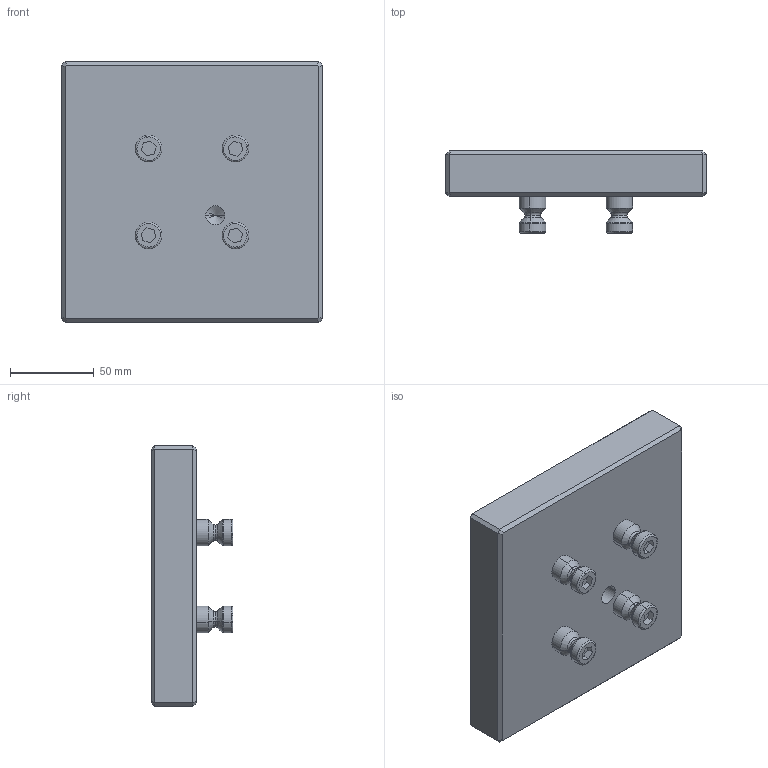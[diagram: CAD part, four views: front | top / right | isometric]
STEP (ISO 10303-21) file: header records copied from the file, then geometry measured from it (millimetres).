
FILE_DESCRIPTION (( 'STEP AP203' ), '1' );
FILE_NAME ('45277.STEP', '2012-10-24T14:00:41', ( '' ), ( '' ), 'SwSTEP 2.0', 'SolidWorks 2011', '' );
FILE_SCHEMA (( 'CONFIG_CONTROL_DESIGN' ));
Length unit declared in the file: millimetre
Products named in the file (1): 45277
Bounding box: 156 x 49 x 156 mm (x, y, z)
Volume: 664934.4 mm3; surface area: 73243.6 mm2
Topology: 5 solids, 5 shells, 178 faces, 378 edges, 217 vertices
Faces by surface type: plane 70, cylinder 42, cone 34, torus 32
Entity records: 4725 total; most frequent: DIRECTION 890, CARTESIAN_POINT 764, ORIENTED_EDGE 736, EDGE_CURVE 368, AXIS2_PLACEMENT_3D 343, VERTEX_POINT 217, VECTOR 204, LINE 204
